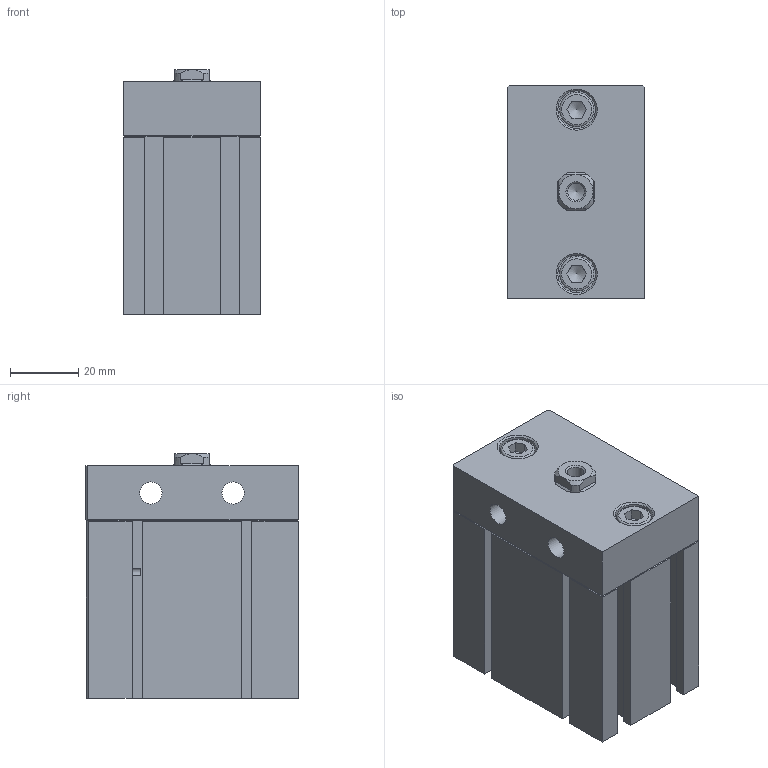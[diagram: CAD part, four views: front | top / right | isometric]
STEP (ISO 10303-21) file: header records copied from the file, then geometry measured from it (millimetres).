
FILE_DESCRIPTION((''),'2;1');
FILE_NAME('I:\3D電子目錄\氣缸\ND\ND\ND32\ND32x20.stp','2007-07-24T19:54:01',('Administrator'),(''),'Autodesk Inventor 11','Autodesk Inventor 11','');
FILE_SCHEMA(('AUTOMOTIVE_DESIGN { 1 0 10303 214 1 1 1 1 }'));
Length unit declared in the file: millimetre
Products named in the file (4): ND32; R 形環 34; ISO 4762 M6 x 16
Assembly tree (4 placements, depth 2):
  ND32
    ND32
    R 形環 34
    ISO 4762 M6 x 16  x2
Bounding box: 40 x 62.1 x 71.5 mm (x, y, z)
Volume: 146822.5 mm3; surface area: 32881 mm2
Topology: 5 solids, 5 shells, 195 faces, 479 edges, 305 vertices
Faces by surface type: plane 133, cylinder 25, cone 18, bspline 16, torus 3
Full cylindrical faces by diameter (mm): 1.9 x2, 2.2 x2, 6 x2, 6.5 x2, 10 x2, 11 x2, 23 x1, 34 x1, 36 x1
Entity records: 5301 total; most frequent: CARTESIAN_POINT 1111, DIRECTION 824, ORIENTED_EDGE 802, EDGE_CURVE 401, VECTOR 296, LINE 296, VERTEX_POINT 277, AXIS2_PLACEMENT_3D 264
